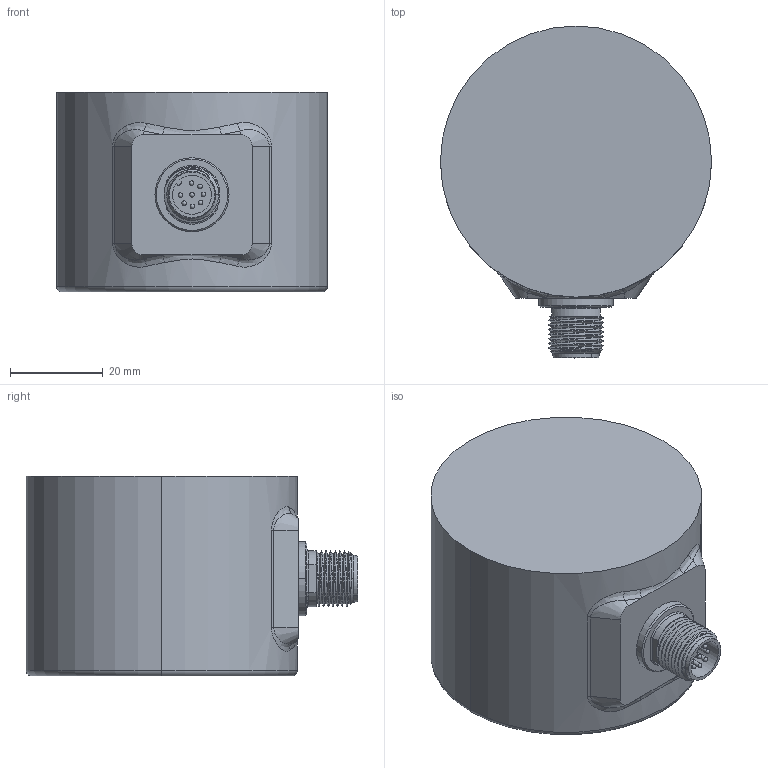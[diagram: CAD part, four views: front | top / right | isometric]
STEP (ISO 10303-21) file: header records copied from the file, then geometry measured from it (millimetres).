
FILE_DESCRIPTION (( 'STEP AP203' ), '1' );
FILE_NAME ('Drawing-MC-5-CR-432-SZM-NNN12B-N-PRM-N.STEP', '2013-04-09T11:50:29', ( '' ), ( '' ), 'SwSTEP 2.0', 'SolidWorks 2006104', '' );
FILE_SCHEMA (( 'CONFIG_CONTROL_DESIGN' ));
Length unit declared in the file: millimetre
Products named in the file (1): Drawing-MC-5-CR-432-SZM-NNN12B-N-PRM-N
Bounding box: 58.6 x 71.7 x 43.2 mm (x, y, z)
Volume: 12298.8 mm3; surface area: 28707.8 mm2
Topology: 3 solids, 3 shells, 188 faces, 456 edges, 281 vertices
Faces by surface type: cylinder 81, plane 41, bspline 26, torus 18, cone 14, sphere 8
Entity records: 19557 total; most frequent: CARTESIAN_POINT 15439, ORIENTED_EDGE 848, DIRECTION 838, EDGE_CURVE 424, AXIS2_PLACEMENT_3D 349, VERTEX_POINT 265, EDGE_LOOP 213, FACE_OUTER_BOUND 188
